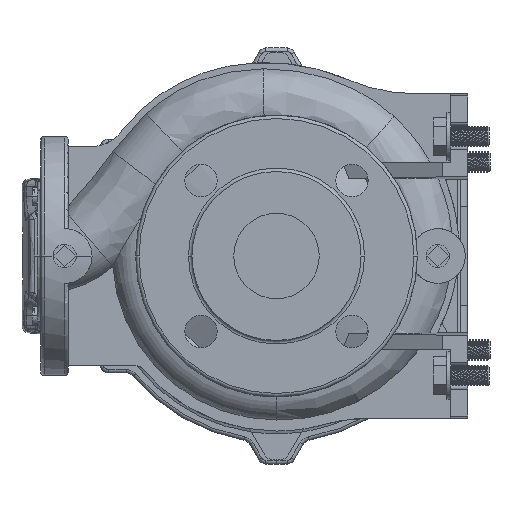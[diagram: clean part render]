
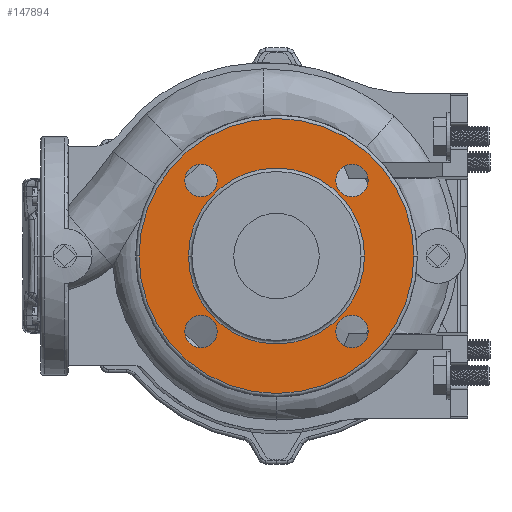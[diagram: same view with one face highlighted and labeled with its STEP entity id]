
A CAD part, left-side view. The second image highlights one B-rep face of the part: STEP entity #147894.
In plain terms, the highlighted planar face has unit normal (-1, 0, 0).
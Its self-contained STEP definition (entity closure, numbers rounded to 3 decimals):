
#148 = DIRECTION ( 'NONE',  ( -1., 0., 0. ) ) ;
#485 = VERTEX_POINT ( 'NONE', #91877 ) ;
#1774 = CIRCLE ( 'NONE', #34773, 9.5 ) ;
#3660 = DIRECTION ( 'NONE',  ( -1., 0., 0. ) ) ;
#6736 = CARTESIAN_POINT ( 'NONE',  ( -78., 44.194, 44.194 ) ) ;
#11171 = CARTESIAN_POINT ( 'NONE',  ( -78., 34.694, 44.194 ) ) ;
#11484 = CARTESIAN_POINT ( 'NONE',  ( -78., -44.194, -44.194 ) ) ;
#12110 = ORIENTED_EDGE ( 'NONE', *, *, #181529, .T. ) ;
#16941 = ORIENTED_EDGE ( 'NONE', *, *, #120690, .F. ) ;
#17310 = CARTESIAN_POINT ( 'NONE',  ( -78., -51.5, 0. ) ) ;
#23766 = CARTESIAN_POINT ( 'NONE',  ( -78., 0., 0. ) ) ;
#26569 = FACE_BOUND ( 'NONE', #173067, .T. ) ;
#27416 = DIRECTION ( 'NONE',  ( 0., 1., 0. ) ) ;
#27580 = VERTEX_POINT ( 'NONE', #138869 ) ;
#28396 = FACE_BOUND ( 'NONE', #160648, .T. ) ;
#33685 = AXIS2_PLACEMENT_3D ( 'NONE', #11484, #148, #27416 ) ;
#34773 = AXIS2_PLACEMENT_3D ( 'NONE', #130299, #98324, #71899 ) ;
#35780 = VERTEX_POINT ( 'NONE', #61951 ) ;
#36019 = DIRECTION ( 'NONE',  ( -1., 0., 0. ) ) ;
#36397 = EDGE_CURVE ( 'NONE', #117202, #46865, #58744, .T. ) ;
#36733 = CARTESIAN_POINT ( 'NONE',  ( -78., 0., 0. ) ) ;
#41250 = VERTEX_POINT ( 'NONE', #54008 ) ;
#44423 = DIRECTION ( 'NONE',  ( 0., 0., 1. ) ) ;
#44821 = ORIENTED_EDGE ( 'NONE', *, *, #93547, .F. ) ;
#45257 = VERTEX_POINT ( 'NONE', #176692 ) ;
#45406 = DIRECTION ( 'NONE',  ( -1., 0., 0. ) ) ;
#46865 = VERTEX_POINT ( 'NONE', #49043 ) ;
#47758 = ORIENTED_EDGE ( 'NONE', *, *, #90529, .F. ) ;
#48066 = EDGE_CURVE ( 'NONE', #71352, #121968, #1774, .T. ) ;
#49043 = CARTESIAN_POINT ( 'NONE',  ( -78., 80.5, 0. ) ) ;
#49183 = DIRECTION ( 'NONE',  ( 0., -1., 0. ) ) ;
#51405 = DIRECTION ( 'NONE',  ( -1., 0., 0. ) ) ;
#52915 = EDGE_LOOP ( 'NONE', ( #47758, #169123 ) ) ;
#54008 = CARTESIAN_POINT ( 'NONE',  ( -78., 51.5, 0. ) ) ;
#55744 = DIRECTION ( 'NONE',  ( 1., 0., 0. ) ) ;
#58744 = CIRCLE ( 'NONE', #118840, 80.5 ) ;
#61951 = CARTESIAN_POINT ( 'NONE',  ( -78., 34.694, -44.194 ) ) ;
#62239 = DIRECTION ( 'NONE',  ( 0., -1., 0. ) ) ;
#66364 = EDGE_CURVE ( 'NONE', #81167, #80641, #106179, .T. ) ;
#71352 = VERTEX_POINT ( 'NONE', #183118 ) ;
#71736 = FACE_BOUND ( 'NONE', #120929, .T. ) ;
#71899 = DIRECTION ( 'NONE',  ( 0., -1., 0. ) ) ;
#73761 = CIRCLE ( 'NONE', #103887, 51.5 ) ;
#75226 = ORIENTED_EDGE ( 'NONE', *, *, #170153, .F. ) ;
#75275 = CIRCLE ( 'NONE', #78352, 80.5 ) ;
#78352 = AXIS2_PLACEMENT_3D ( 'NONE', #91208, #3660, #176952 ) ;
#80641 = VERTEX_POINT ( 'NONE', #112384 ) ;
#81167 = VERTEX_POINT ( 'NONE', #114719 ) ;
#85863 = CARTESIAN_POINT ( 'NONE',  ( -78., 51.5, 0. ) ) ;
#86812 = FACE_OUTER_BOUND ( 'NONE', #98740, .T. ) ;
#87435 = CARTESIAN_POINT ( 'NONE',  ( -78., -44.194, 44.194 ) ) ;
#87715 = FACE_BOUND ( 'NONE', #52915, .T. ) ;
#89607 = CARTESIAN_POINT ( 'NONE',  ( -78., 44.194, -44.194 ) ) ;
#90529 = EDGE_CURVE ( 'NONE', #35780, #27580, #171388, .T. ) ;
#91208 = CARTESIAN_POINT ( 'NONE',  ( -78., 0., 0. ) ) ;
#91621 = CIRCLE ( 'NONE', #184978, 9.5 ) ;
#91877 = CARTESIAN_POINT ( 'NONE',  ( -78., -53.694, -44.194 ) ) ;
#93547 = EDGE_CURVE ( 'NONE', #41250, #105967, #162317, .T. ) ;
#93942 = DIRECTION ( 'NONE',  ( -1., 0., 0. ) ) ;
#95978 = AXIS2_PLACEMENT_3D ( 'NONE', #118520, #93942, #108114 ) ;
#97486 = CARTESIAN_POINT ( 'NONE',  ( -78., -80.5, 0. ) ) ;
#98324 = DIRECTION ( 'NONE',  ( -1., 0., 0. ) ) ;
#98740 = EDGE_LOOP ( 'NONE', ( #152702, #12110 ) ) ;
#100943 = FACE_BOUND ( 'NONE', #172860, .T. ) ;
#101007 = DIRECTION ( 'NONE',  ( -1., 0., 0. ) ) ;
#102025 = AXIS2_PLACEMENT_3D ( 'NONE', #125827, #183269, #110751 ) ;
#103887 = AXIS2_PLACEMENT_3D ( 'NONE', #172590, #101007, #157541 ) ;
#104711 = AXIS2_PLACEMENT_3D ( 'NONE', #6736, #45406, #161320 ) ;
#105967 = VERTEX_POINT ( 'NONE', #17310 ) ;
#106179 = CIRCLE ( 'NONE', #154389, 9.5 ) ;
#106748 = ORIENTED_EDGE ( 'NONE', *, *, #66364, .F. ) ;
#108114 = DIRECTION ( 'NONE',  ( 0., 0., 1. ) ) ;
#110751 = DIRECTION ( 'NONE',  ( 0., 1., 0. ) ) ;
#112384 = CARTESIAN_POINT ( 'NONE',  ( -78., -34.694, 44.194 ) ) ;
#114719 = CARTESIAN_POINT ( 'NONE',  ( -78., -53.694, 44.194 ) ) ;
#116972 = DIRECTION ( 'NONE',  ( -1., 0., 0. ) ) ;
#117202 = VERTEX_POINT ( 'NONE', #97486 ) ;
#118520 = CARTESIAN_POINT ( 'NONE',  ( -78., 44.194, -44.194 ) ) ;
#118840 = AXIS2_PLACEMENT_3D ( 'NONE', #23766, #36019, #49183 ) ;
#120690 = EDGE_CURVE ( 'NONE', #45257, #485, #156092, .T. ) ;
#120929 = EDGE_LOOP ( 'NONE', ( #106748, #75226 ) ) ;
#121968 = VERTEX_POINT ( 'NONE', #11171 ) ;
#125827 = CARTESIAN_POINT ( 'NONE',  ( -78., -44.194, -44.194 ) ) ;
#125933 = ORIENTED_EDGE ( 'NONE', *, *, #48066, .F. ) ;
#126776 = ORIENTED_EDGE ( 'NONE', *, *, #162496, .F. ) ;
#128136 = AXIS2_PLACEMENT_3D ( 'NONE', #85863, #55744, #128295 ) ;
#128295 = DIRECTION ( 'NONE',  ( 0., 1., 0. ) ) ;
#130135 = PLANE ( 'NONE',  #128136 ) ;
#130299 = CARTESIAN_POINT ( 'NONE',  ( -78., 44.194, 44.194 ) ) ;
#138869 = CARTESIAN_POINT ( 'NONE',  ( -78., 53.694, -44.194 ) ) ;
#143402 = EDGE_CURVE ( 'NONE', #27580, #35780, #149770, .T. ) ;
#147894 = ADVANCED_FACE ( 'NONE', ( #71736, #28396, #87715, #100943, #26569, #86812 ), #130135, .F. ) ;
#149770 = CIRCLE ( 'NONE', #95978, 9.5 ) ;
#150204 = AXIS2_PLACEMENT_3D ( 'NONE', #36733, #176255, #62239 ) ;
#152257 = DIRECTION ( 'NONE',  ( 0., 0., -1. ) ) ;
#152702 = ORIENTED_EDGE ( 'NONE', *, *, #36397, .T. ) ;
#154389 = AXIS2_PLACEMENT_3D ( 'NONE', #180498, #51405, #152257 ) ;
#156092 = CIRCLE ( 'NONE', #102025, 9.5 ) ;
#157138 = EDGE_CURVE ( 'NONE', #121968, #71352, #179889, .T. ) ;
#157541 = DIRECTION ( 'NONE',  ( 0., -1., 0. ) ) ;
#159964 = DIRECTION ( 'NONE',  ( -1., 0., 0. ) ) ;
#160648 = EDGE_LOOP ( 'NONE', ( #126776, #16941 ) ) ;
#161320 = DIRECTION ( 'NONE',  ( 0., -1., 0. ) ) ;
#162317 = CIRCLE ( 'NONE', #150204, 51.5 ) ;
#162369 = AXIS2_PLACEMENT_3D ( 'NONE', #89607, #116972, #44423 ) ;
#162496 = EDGE_CURVE ( 'NONE', #485, #45257, #175190, .T. ) ;
#169123 = ORIENTED_EDGE ( 'NONE', *, *, #143402, .F. ) ;
#170153 = EDGE_CURVE ( 'NONE', #80641, #81167, #91621, .T. ) ;
#171388 = CIRCLE ( 'NONE', #162369, 9.5 ) ;
#172590 = CARTESIAN_POINT ( 'NONE',  ( -78., 0., 0. ) ) ;
#172860 = EDGE_LOOP ( 'NONE', ( #177591, #125933 ) ) ;
#173067 = EDGE_LOOP ( 'NONE', ( #184898, #44821 ) ) ;
#175190 = CIRCLE ( 'NONE', #33685, 9.5 ) ;
#176255 = DIRECTION ( 'NONE',  ( -1., 0., 0. ) ) ;
#176692 = CARTESIAN_POINT ( 'NONE',  ( -78., -34.694, -44.194 ) ) ;
#176952 = DIRECTION ( 'NONE',  ( 0., -1., 0. ) ) ;
#177591 = ORIENTED_EDGE ( 'NONE', *, *, #157138, .F. ) ;
#179889 = CIRCLE ( 'NONE', #104711, 9.5 ) ;
#180498 = CARTESIAN_POINT ( 'NONE',  ( -78., -44.194, 44.194 ) ) ;
#181529 = EDGE_CURVE ( 'NONE', #46865, #117202, #75275, .T. ) ;
#182912 = EDGE_CURVE ( 'NONE', #105967, #41250, #73761, .T. ) ;
#183118 = CARTESIAN_POINT ( 'NONE',  ( -78., 53.694, 44.194 ) ) ;
#183269 = DIRECTION ( 'NONE',  ( -1., 0., 0. ) ) ;
#184898 = ORIENTED_EDGE ( 'NONE', *, *, #182912, .F. ) ;
#184978 = AXIS2_PLACEMENT_3D ( 'NONE', #87435, #159964, #186374 ) ;
#186374 = DIRECTION ( 'NONE',  ( 0., 0., -1. ) ) ;
